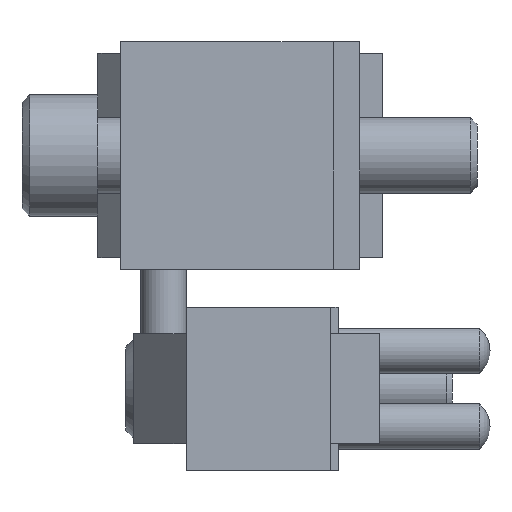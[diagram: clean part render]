
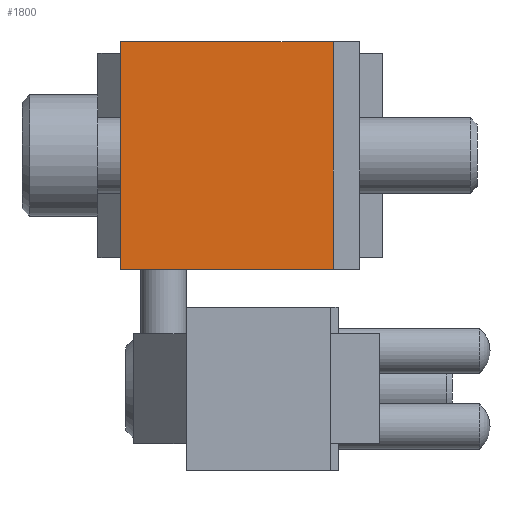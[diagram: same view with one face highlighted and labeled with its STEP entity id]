
A CAD part, left-side view. The second image highlights one B-rep face of the part: STEP entity #1800.
In plain terms, the highlighted planar face has unit normal (-1, 0, 0).
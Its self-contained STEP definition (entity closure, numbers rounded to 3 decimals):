
#1800 = ADVANCED_FACE( '', ( #3752 ), #3753, .F. );
#3752 = FACE_OUTER_BOUND( '', #6018, .T. );
#3753 = PLANE( '', #6019 );
#6018 = EDGE_LOOP( '', ( #10684, #10685, #10686, #10687 ) );
#6019 = AXIS2_PLACEMENT_3D( '', #10688, #10689, #10690 );
#10684 = ORIENTED_EDGE( '', *, *, #15143, .F. );
#10685 = ORIENTED_EDGE( '', *, *, #15868, .F. );
#10686 = ORIENTED_EDGE( '', *, *, #15280, .F. );
#10687 = ORIENTED_EDGE( '', *, *, #15079, .T. );
#10688 = CARTESIAN_POINT( '', ( 0., 31.5, -15. ) );
#10689 = DIRECTION( '', ( 1., 0., 0. ) );
#10690 = DIRECTION( '', ( 0., 0., -1. ) );
#15079 = EDGE_CURVE( '', #18591, #18589, #18592, .T. );
#15143 = EDGE_CURVE( '', #18689, #18589, #18691, .T. );
#15280 = EDGE_CURVE( '', #18591, #18910, #18911, .T. );
#15868 = EDGE_CURVE( '', #18910, #18689, #19755, .T. );
#18589 = VERTEX_POINT( '', #23488 );
#18591 = VERTEX_POINT( '', #23491 );
#18592 = LINE( '', #23492, #23493 );
#18689 = VERTEX_POINT( '', #23681 );
#18691 = LINE( '', #23684, #23685 );
#18910 = VERTEX_POINT( '', #24009 );
#18911 = LINE( '', #24010, #24011 );
#19755 = LINE( '', #25272, #25273 );
#23488 = CARTESIAN_POINT( '', ( 0., 3.5, -15. ) );
#23491 = CARTESIAN_POINT( '', ( 0., 31.5, -15. ) );
#23492 = CARTESIAN_POINT( '', ( 0., 31.5, -15. ) );
#23493 = VECTOR( '', #27620, 1000. );
#23681 = CARTESIAN_POINT( '', ( 0., 3.5, 15. ) );
#23684 = CARTESIAN_POINT( '', ( 0., 3.5, -15. ) );
#23685 = VECTOR( '', #27674, 1000. );
#24009 = CARTESIAN_POINT( '', ( 0., 31.5, 15. ) );
#24010 = CARTESIAN_POINT( '', ( 0., 31.5, -15. ) );
#24011 = VECTOR( '', #27789, 1000. );
#25272 = CARTESIAN_POINT( '', ( 0., 31.5, 15. ) );
#25273 = VECTOR( '', #28297, 1000. );
#27620 = DIRECTION( '', ( 0., -1., 0. ) );
#27674 = DIRECTION( '', ( 0., 0., -1. ) );
#27789 = DIRECTION( '', ( 0., 0., 1. ) );
#28297 = DIRECTION( '', ( 0., -1., 0. ) );
